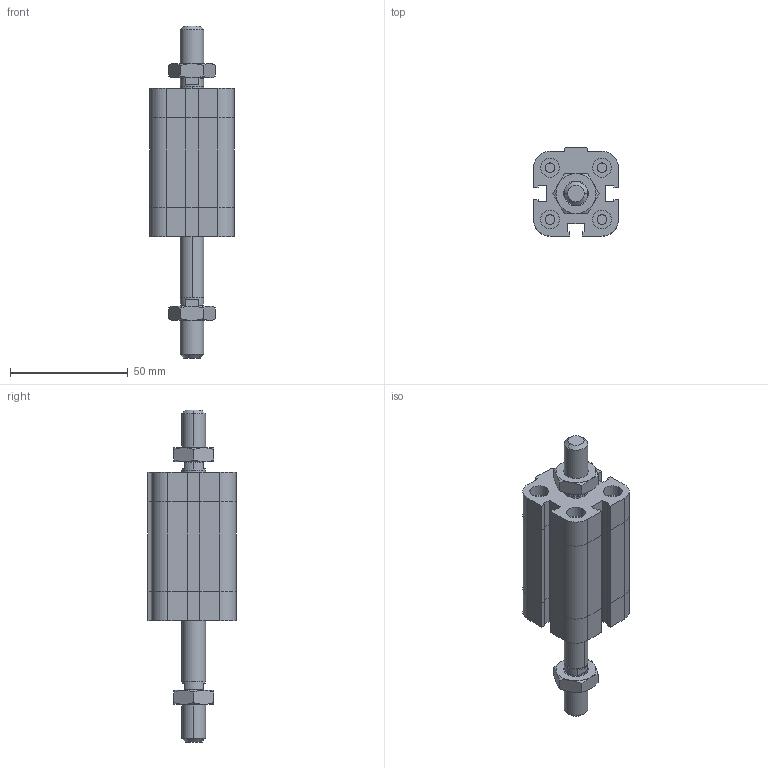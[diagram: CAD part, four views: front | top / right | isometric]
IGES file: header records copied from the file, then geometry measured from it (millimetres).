
Global section: file name: No Iges File Name specified; native system: Autodesk Inventor 2009; preprocessor: AutoDesk Inventor Iges Exporter R2009; author: maffial1; date: 20090420.200842; units: millimetre
Bounding box: 36 x 37.5 x 141 mm (x, y, z)
Volume: 78091 mm3; surface area: 24184 mm2
Topology: 4 solids, 4 shells, 260 faces, 574 edges, 342 vertices
Faces by surface type: plane 129, bspline 51, cone 38, cylinder 22, revolution 20
